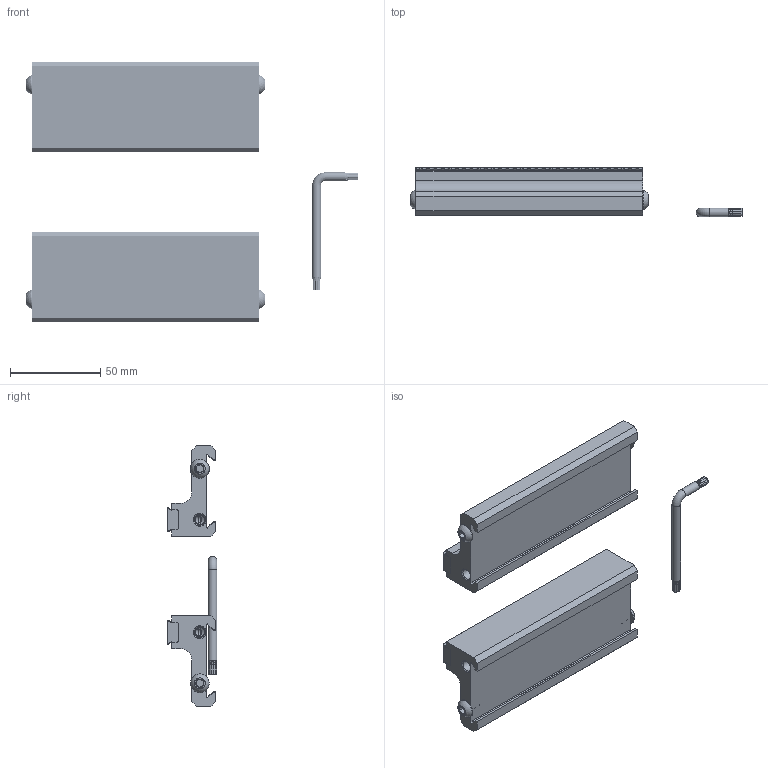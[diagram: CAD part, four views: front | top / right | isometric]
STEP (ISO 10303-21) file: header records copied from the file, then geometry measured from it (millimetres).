
FILE_DESCRIPTION (( 'STEP AP214' ), '1' );
FILE_NAME ('VGA-VA5_WEBSITE.STEP', '2025-08-15T23:09:56', ( '' ), ( '' ), 'SwSTEP 2.0', 'SolidWorks 2024', '' );
FILE_SCHEMA (( 'AUTOMOTIVE_DESIGN' ));
Length unit declared in the file: inch
Products named in the file (6): VGA-VA5_WEBSITE; M6X8MM.BHCS_M6X8MM.BHCS; M5X12MM.TPFHS_M5X12MM.TPFHS; VA56-7_VA56-7; VA56-5_VA56-5; IP25.L-KEY_IP25.L-KEY
Assembly tree (19 placements, depth 2):
  VGA-VA5_WEBSITE
    VA56-5_VA56-5  x2
    VA56-7_VA56-7  x2
    M5X12MM.TPFHS_M5X12MM.TPFHS  x10
    M6X8MM.BHCS_M6X8MM.BHCS  x4
    IP25.L-KEY_IP25.L-KEY
Bounding box: 184.17 x 27.49 x 144.42 mm (x, y, z)
Volume: 175056.7 mm3; surface area: 65099.6 mm2
Topology: 19 solids, 19 shells, 1151 faces, 2882 edges, 1801 vertices
Faces by surface type: plane 452, cylinder 390, cone 202, bspline 56, torus 47, sphere 4
Full cylindrical faces by diameter (mm): 4.2 x6, 4.762 x2, 5 x18, 5.5 x10, 6 x8, 10.25 x10, 10.5 x14
Entity records: 19702 total; most frequent: CARTESIAN_POINT 8176, ORIENTED_EDGE 2446, DIRECTION 2196, EDGE_CURVE 1223, AXIS2_PLACEMENT_3D 819, VERTEX_POINT 803, EDGE_LOOP 574, LINE 558
